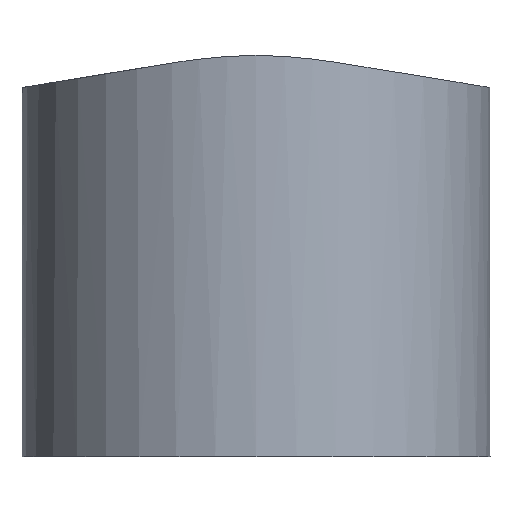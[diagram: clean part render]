
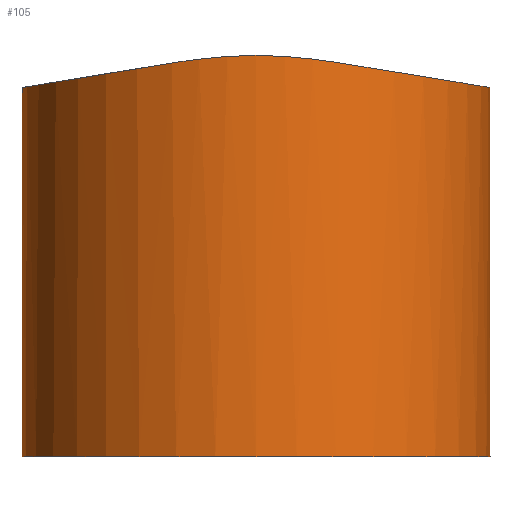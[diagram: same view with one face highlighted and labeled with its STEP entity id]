
A CAD part, left-side view. The second image highlights one B-rep face of the part: STEP entity #105.
In plain terms, the highlighted cylindrical face has radius 4.445 mm (diameter 8.89 mm), a full revolution.
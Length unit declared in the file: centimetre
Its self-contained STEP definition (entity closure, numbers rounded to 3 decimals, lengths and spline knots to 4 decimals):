
#34=CIRCLE('',#112,0.4445);
#35=CYLINDRICAL_SURFACE('',#111,0.4445);
#36=B_SPLINE_CURVE_WITH_KNOTS('',3,(#164,#165,#166,#167,#168,#169),.UNSPECIFIED.,
 .F.,.U.,(4,2,4),(0.,0.0819,0.1638),.UNSPECIFIED.);
#37=B_SPLINE_CURVE_WITH_KNOTS('',3,(#171,#172,#173,#174,#175,#176),.UNSPECIFIED.,
 .F.,.U.,(4,2,4),(0.,0.0411,0.1644),.UNSPECIFIED.);
#38=B_SPLINE_CURVE_WITH_KNOTS('',3,(#205,#206,#207,#208,#209,#210),.UNSPECIFIED.,
 .F.,.U.,(4,2,4),(0.,0.0821,0.1642),.UNSPECIFIED.);
#39=B_SPLINE_CURVE_WITH_KNOTS('',3,(#211,#212,#213,#214,#215,#216),.UNSPECIFIED.,
 .F.,.U.,(4,2,4),(0.,0.0386,0.1647),.UNSPECIFIED.);
#48=VERTEX_POINT('',#130);
#49=VERTEX_POINT('',#131);
#50=VERTEX_POINT('',#135);
#51=VERTEX_POINT('',#136);
#52=VERTEX_POINT('',#170);
#53=VERTEX_POINT('',#177);
#54=VERTEX_POINT('',#219);
#55=ELLIPSE('',#108,0.4504,0.4445);
#56=ELLIPSE('',#110,0.4504,0.4445);
#57=EDGE_CURVE('',#48,#49,#55,.T.);
#59=EDGE_CURVE('',#50,#51,#56,.T.);
#61=EDGE_CURVE('',#51,#52,#36,.T.);
#62=EDGE_CURVE('',#53,#50,#37,.T.);
#64=EDGE_CURVE('',#52,#48,#38,.T.);
#65=EDGE_CURVE('',#49,#53,#39,.T.);
#66=EDGE_CURVE('',#54,#54,#34,.T.);
#79=ORIENTED_EDGE('',*,*,#59,.T.);
#80=ORIENTED_EDGE('',*,*,#61,.T.);
#81=ORIENTED_EDGE('',*,*,#64,.T.);
#82=ORIENTED_EDGE('',*,*,#57,.T.);
#83=ORIENTED_EDGE('',*,*,#65,.T.);
#84=ORIENTED_EDGE('',*,*,#62,.T.);
#85=ORIENTED_EDGE('',*,*,#66,.T.);
#91=EDGE_LOOP('',(#79,#80,#81,#82,#83,#84));
#92=EDGE_LOOP('',(#85));
#98=FACE_BOUND('',#91,.T.);
#99=FACE_BOUND('',#92,.T.);
#105=ADVANCED_FACE('',(#98,#99),#35,.T.);
#108=AXIS2_PLACEMENT_3D('',#129,#115,#116);
#110=AXIS2_PLACEMENT_3D('',#134,#119,#120);
#111=AXIS2_PLACEMENT_3D('',#217,#123,#124);
#112=AXIS2_PLACEMENT_3D('',#218,#125,#126);
#115=DIRECTION('',(0.,0.162,-0.987));
#116=DIRECTION('',(0.,0.445,0.073));
#119=DIRECTION('',(0.,-0.162,-0.987));
#120=DIRECTION('',(0.,0.445,-0.073));
#123=DIRECTION('',(0.,0.,1.));
#124=DIRECTION('',(0.445,0.,0.));
#125=DIRECTION('',(0.,0.,1.));
#126=DIRECTION('',(0.445,0.,0.));
#129=CARTESIAN_POINT('',(0.,0.,0.7738));
#130=CARTESIAN_POINT('',(0.4148,-0.1597,0.7476));
#131=CARTESIAN_POINT('',(-0.4148,-0.1597,0.7476));
#134=CARTESIAN_POINT('',(0.,0.,0.7738));
#135=CARTESIAN_POINT('',(-0.4148,0.1597,0.7476));
#136=CARTESIAN_POINT('',(0.4148,0.1597,0.7476));
#164=CARTESIAN_POINT('',(0.4148,0.1597,0.7476));
#165=CARTESIAN_POINT('',(0.4245,0.1345,0.7517));
#166=CARTESIAN_POINT('',(0.4319,0.1084,0.7554));
#167=CARTESIAN_POINT('',(0.442,0.0547,0.7605));
#168=CARTESIAN_POINT('',(0.4445,0.0274,0.762));
#169=CARTESIAN_POINT('',(0.4445,0.,0.762));
#170=CARTESIAN_POINT('',(0.4445,0.,0.762));
#171=CARTESIAN_POINT('',(-0.4445,0.,0.762));
#172=CARTESIAN_POINT('',(-0.4445,0.0137,0.762));
#173=CARTESIAN_POINT('',(-0.4439,0.0274,0.7616));
#174=CARTESIAN_POINT('',(-0.4388,0.0819,0.7588));
#175=CARTESIAN_POINT('',(-0.4294,0.1218,0.7538));
#176=CARTESIAN_POINT('',(-0.4148,0.1597,0.7476));
#177=CARTESIAN_POINT('',(-0.4445,0.,0.762));
#205=CARTESIAN_POINT('',(0.4445,0.,0.762));
#206=CARTESIAN_POINT('',(0.4445,-0.0274,0.762));
#207=CARTESIAN_POINT('',(0.442,-0.0546,0.7605));
#208=CARTESIAN_POINT('',(0.432,-0.1084,0.7554));
#209=CARTESIAN_POINT('',(0.4245,-0.1345,0.7517));
#210=CARTESIAN_POINT('',(0.4148,-0.1597,0.7476));
#211=CARTESIAN_POINT('',(-0.4148,-0.1597,0.7476));
#212=CARTESIAN_POINT('',(-0.4194,-0.1478,0.7496));
#213=CARTESIAN_POINT('',(-0.4235,-0.1358,0.7514));
#214=CARTESIAN_POINT('',(-0.4386,-0.0835,0.7585));
#215=CARTESIAN_POINT('',(-0.4445,-0.0419,0.762));
#216=CARTESIAN_POINT('',(-0.4445,0.,0.762));
#217=CARTESIAN_POINT('',(0.,0.,0.));
#218=CARTESIAN_POINT('',(0.,0.,0.));
#219=CARTESIAN_POINT('',(0.4445,0.,0.));
